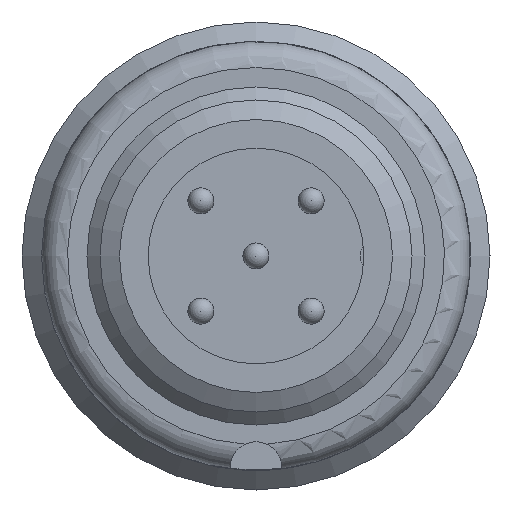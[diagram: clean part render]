
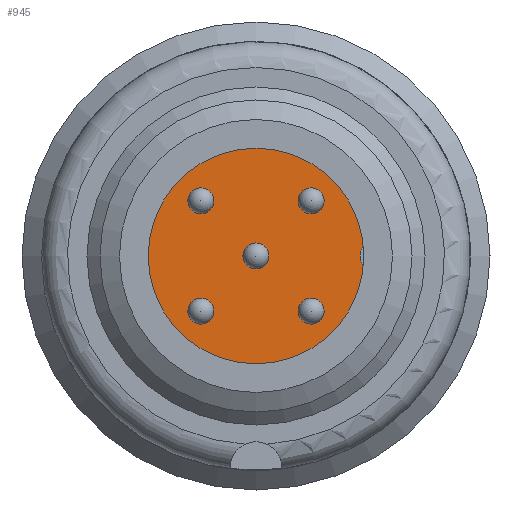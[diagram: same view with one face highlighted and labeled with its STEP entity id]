
A CAD part, left-side view. The second image highlights one B-rep face of the part: STEP entity #945.
In plain terms, the highlighted planar face has unit normal (-1, 0, 0).
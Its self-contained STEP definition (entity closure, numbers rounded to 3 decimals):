
#133=PLANE('',#1071);
#227=FACE_BOUND('',#385,.T.);
#228=FACE_BOUND('',#386,.T.);
#229=FACE_BOUND('',#387,.T.);
#230=FACE_BOUND('',#388,.T.);
#231=FACE_BOUND('',#389,.T.);
#299=FACE_OUTER_BOUND('',#384,.T.);
#384=EDGE_LOOP('',(#848,#849));
#385=EDGE_LOOP('',(#850));
#386=EDGE_LOOP('',(#851));
#387=EDGE_LOOP('',(#852));
#388=EDGE_LOOP('',(#853));
#389=EDGE_LOOP('',(#854));
#448=CIRCLE('',#1041,0.5);
#451=CIRCLE('',#1046,4.5);
#453=CIRCLE('',#1050,0.5);
#455=CIRCLE('',#1054,0.5);
#457=CIRCLE('',#1058,0.5);
#459=CIRCLE('',#1062,0.5);
#461=CIRCLE('',#1066,0.5);
#528=VERTEX_POINT('',#3158);
#530=VERTEX_POINT('',#3161);
#533=VERTEX_POINT('',#3174);
#535=VERTEX_POINT('',#3180);
#537=VERTEX_POINT('',#3186);
#539=VERTEX_POINT('',#3192);
#541=VERTEX_POINT('',#3198);
#637=EDGE_CURVE('',#530,#528,#448,.T.);
#641=EDGE_CURVE('',#530,#528,#451,.T.);
#643=EDGE_CURVE('',#533,#533,#453,.T.);
#645=EDGE_CURVE('',#535,#535,#455,.T.);
#647=EDGE_CURVE('',#537,#537,#457,.T.);
#649=EDGE_CURVE('',#539,#539,#459,.T.);
#651=EDGE_CURVE('',#541,#541,#461,.T.);
#848=ORIENTED_EDGE('',*,*,#637,.T.);
#849=ORIENTED_EDGE('',*,*,#641,.F.);
#850=ORIENTED_EDGE('',*,*,#649,.T.);
#851=ORIENTED_EDGE('',*,*,#651,.T.);
#852=ORIENTED_EDGE('',*,*,#647,.T.);
#853=ORIENTED_EDGE('',*,*,#645,.T.);
#854=ORIENTED_EDGE('',*,*,#643,.T.);
#945=ADVANCED_FACE('',(#299,#227,#228,#229,#230,#231),#133,.T.);
#1041=AXIS2_PLACEMENT_3D('',#3162,#1283,#1284);
#1046=AXIS2_PLACEMENT_3D('',#3169,#1294,#1295);
#1050=AXIS2_PLACEMENT_3D('',#3175,#1302,#1303);
#1054=AXIS2_PLACEMENT_3D('',#3181,#1310,#1311);
#1058=AXIS2_PLACEMENT_3D('',#3187,#1318,#1319);
#1062=AXIS2_PLACEMENT_3D('',#3193,#1326,#1327);
#1066=AXIS2_PLACEMENT_3D('',#3199,#1334,#1335);
#1071=AXIS2_PLACEMENT_3D('',#3206,#1344,#1345);
#1283=DIRECTION('center_axis',(1.,0.,0.));
#1284=DIRECTION('ref_axis',(0.,0.,-1.));
#1294=DIRECTION('center_axis',(1.,0.,0.));
#1295=DIRECTION('ref_axis',(0.,1.,0.));
#1302=DIRECTION('center_axis',(1.,0.,0.));
#1303=DIRECTION('ref_axis',(0.,0.,-1.));
#1310=DIRECTION('center_axis',(1.,0.,0.));
#1311=DIRECTION('ref_axis',(0.,0.,-1.));
#1318=DIRECTION('center_axis',(1.,0.,0.));
#1319=DIRECTION('ref_axis',(0.,0.,-1.));
#1326=DIRECTION('center_axis',(1.,0.,0.));
#1327=DIRECTION('ref_axis',(0.,0.,-1.));
#1334=DIRECTION('center_axis',(1.,0.,0.));
#1335=DIRECTION('ref_axis',(0.,0.,-1.));
#1344=DIRECTION('center_axis',(-1.,0.,0.));
#1345=DIRECTION('ref_axis',(0.,0.,1.));
#3158=CARTESIAN_POINT('',(-43.018,-4.472,0.499));
#3161=CARTESIAN_POINT('',(-43.018,-4.472,-0.499));
#3162=CARTESIAN_POINT('Origin',(-43.018,-4.5,0.));
#3169=CARTESIAN_POINT('Origin',(-43.018,0.,
0.));
#3174=CARTESIAN_POINT('',(-43.018,0.,0.5));
#3175=CARTESIAN_POINT('Origin',(-43.018,0.,
0.));
#3180=CARTESIAN_POINT('',(-43.018,2.121,-1.621));
#3181=CARTESIAN_POINT('Origin',(-43.018,2.121,-2.121));
#3186=CARTESIAN_POINT('',(-43.018,-2.121,2.621));
#3187=CARTESIAN_POINT('Origin',(-43.018,-2.121,2.121));
#3192=CARTESIAN_POINT('',(-43.018,-2.121,-1.621));
#3193=CARTESIAN_POINT('Origin',(-43.018,-2.121,-2.121));
#3198=CARTESIAN_POINT('',(-43.018,2.121,2.621));
#3199=CARTESIAN_POINT('Origin',(-43.018,2.121,2.121));
#3206=CARTESIAN_POINT('Origin',(-43.018,2.25,0.));
